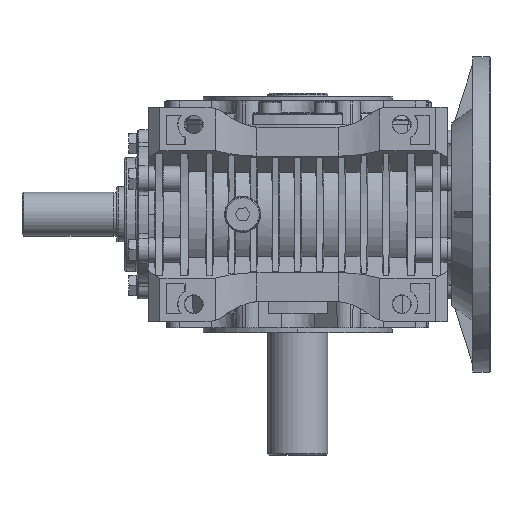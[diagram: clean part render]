
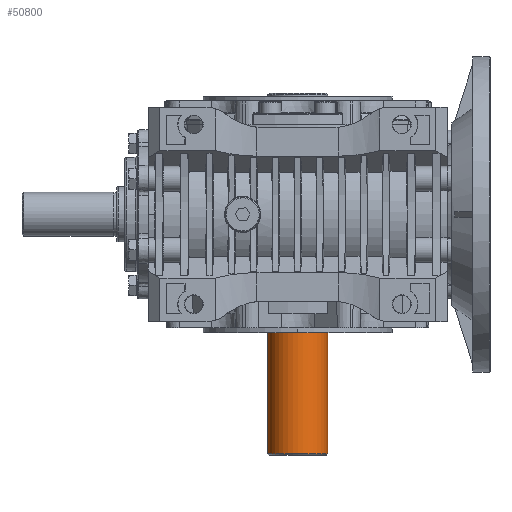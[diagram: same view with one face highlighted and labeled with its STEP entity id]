
A CAD part, front view. The second image highlights one B-rep face of the part: STEP entity #50800.
In plain terms, the highlighted cylindrical face has radius 19 mm (diameter 38 mm), a partial arc.
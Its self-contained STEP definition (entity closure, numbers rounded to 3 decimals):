
#4686 = DIRECTION ( 'NONE',  ( 0., 0., 1. ) ) ;
#10844 = DIRECTION ( 'NONE',  ( 0., 0., 1. ) ) ;
#11027 = ORIENTED_EDGE ( 'NONE', *, *, #18920, .T. ) ;
#17694 = VERTEX_POINT ( 'NONE', #67687 ) ;
#18196 = CARTESIAN_POINT ( 'NONE',  ( 19., 0., -69. ) ) ;
#18920 = EDGE_CURVE ( 'NONE', #107127, #60370, #96386, .T. ) ;
#21647 = CIRCLE ( 'NONE', #25293, 19. ) ;
#22398 = ORIENTED_EDGE ( 'NONE', *, *, #92768, .F. ) ;
#25293 = AXIS2_PLACEMENT_3D ( 'NONE', #89039, #62189, #45608 ) ;
#26176 = DIRECTION ( 'NONE',  ( 0., 0., 1. ) ) ;
#26554 = ORIENTED_EDGE ( 'NONE', *, *, #58409, .F. ) ;
#30654 = AXIS2_PLACEMENT_3D ( 'NONE', #107682, #109358, #67607 ) ;
#36508 = CARTESIAN_POINT ( 'NONE',  ( 0., 0., -152. ) ) ;
#42352 = CIRCLE ( 'NONE', #93487, 19. ) ;
#45608 = DIRECTION ( 'NONE',  ( 1., 0., 0. ) ) ;
#48042 = LINE ( 'NONE', #82886, #49918 ) ;
#49918 = VECTOR ( 'NONE', #4686, 1000. ) ;
#50800 = ADVANCED_FACE ( 'NONE', ( #89424 ), #72818, .T. ) ;
#53046 = DIRECTION ( 'NONE',  ( 1., 0., 0. ) ) ;
#56744 = EDGE_CURVE ( 'NONE', #101704, #107127, #42352, .T. ) ;
#58409 = EDGE_CURVE ( 'NONE', #101704, #17694, #48042, .T. ) ;
#59222 = EDGE_LOOP ( 'NONE', ( #26554, #64766, #11027, #22398 ) ) ;
#59662 = VECTOR ( 'NONE', #26176, 1000. ) ;
#60370 = VERTEX_POINT ( 'NONE', #77710 ) ;
#62189 = DIRECTION ( 'NONE',  ( 0., 0., 1. ) ) ;
#64766 = ORIENTED_EDGE ( 'NONE', *, *, #56744, .T. ) ;
#66131 = CARTESIAN_POINT ( 'NONE',  ( 19., 0., -152. ) ) ;
#67607 = DIRECTION ( 'NONE',  ( 1., 0., 0. ) ) ;
#67687 = CARTESIAN_POINT ( 'NONE',  ( -19., 0., -75. ) ) ;
#70538 = CARTESIAN_POINT ( 'NONE',  ( -19., 0., -152. ) ) ;
#72818 = CYLINDRICAL_SURFACE ( 'NONE', #30654, 19. ) ;
#77710 = CARTESIAN_POINT ( 'NONE',  ( 19., 0., -75. ) ) ;
#82886 = CARTESIAN_POINT ( 'NONE',  ( -19., 0., -69. ) ) ;
#89039 = CARTESIAN_POINT ( 'NONE',  ( 0., 0., -75. ) ) ;
#89424 = FACE_OUTER_BOUND ( 'NONE', #59222, .T. ) ;
#92768 = EDGE_CURVE ( 'NONE', #17694, #60370, #21647, .T. ) ;
#93487 = AXIS2_PLACEMENT_3D ( 'NONE', #36508, #10844, #53046 ) ;
#96386 = LINE ( 'NONE', #18196, #59662 ) ;
#101704 = VERTEX_POINT ( 'NONE', #70538 ) ;
#107127 = VERTEX_POINT ( 'NONE', #66131 ) ;
#107682 = CARTESIAN_POINT ( 'NONE',  ( 0., 0., -69. ) ) ;
#109358 = DIRECTION ( 'NONE',  ( 0., 0., 1. ) ) ;
